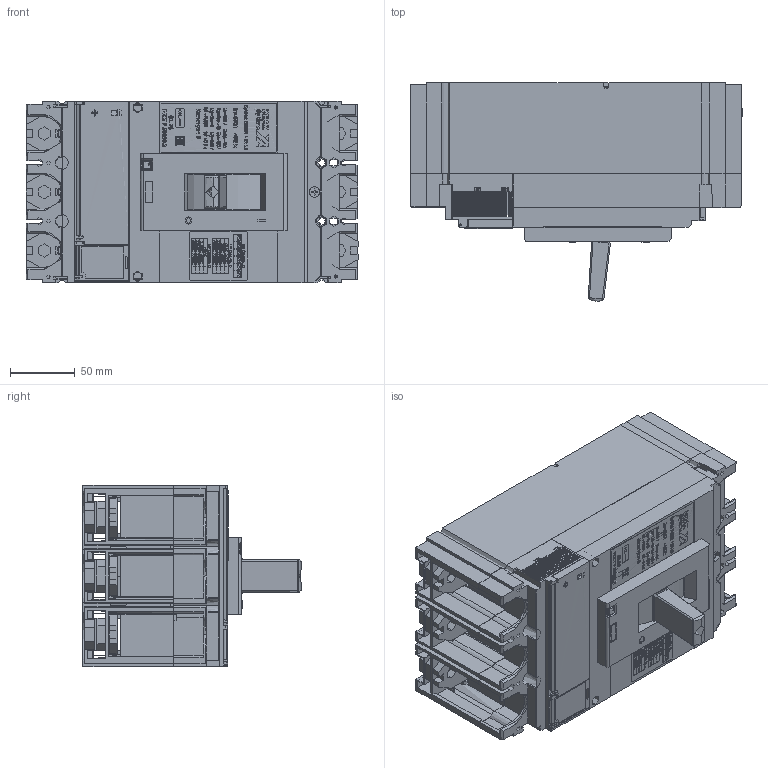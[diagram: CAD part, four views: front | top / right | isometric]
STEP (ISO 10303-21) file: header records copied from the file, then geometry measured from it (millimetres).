
FILE_DESCRIPTION (( 'STEP AP203' ), '1' );
FILE_NAME ('OptiMat D630.STEP', '2016-09-21T12:13:55', ( 'adm' ), ( '' ), 'SwSTEP 2.0', 'SolidWorks 2012', '' );
FILE_SCHEMA (( 'CONFIG_CONTROL_DESIGN' ));
Products named in the file (1): OptiMat D630
Bounding box: 255.51 x 167.95 x 140 mm (x, y, z)
Topology: 0 solids, 190 shells, 2452 faces, 11095 edges, 8935 vertices
Faces by surface type: plane 1758, cylinder 465, bspline 221, cone 8
Entity records: 168855 total; most frequent: CARTESIAN_POINT 88220, ORIENTED_EDGE 17321, DIRECTION 12030, EDGE_CURVE 11073, VERTEX_POINT 8935, VECTOR 6110, LINE 6110, B_SPLINE_CURVE_WITH_KNOTS 4210
